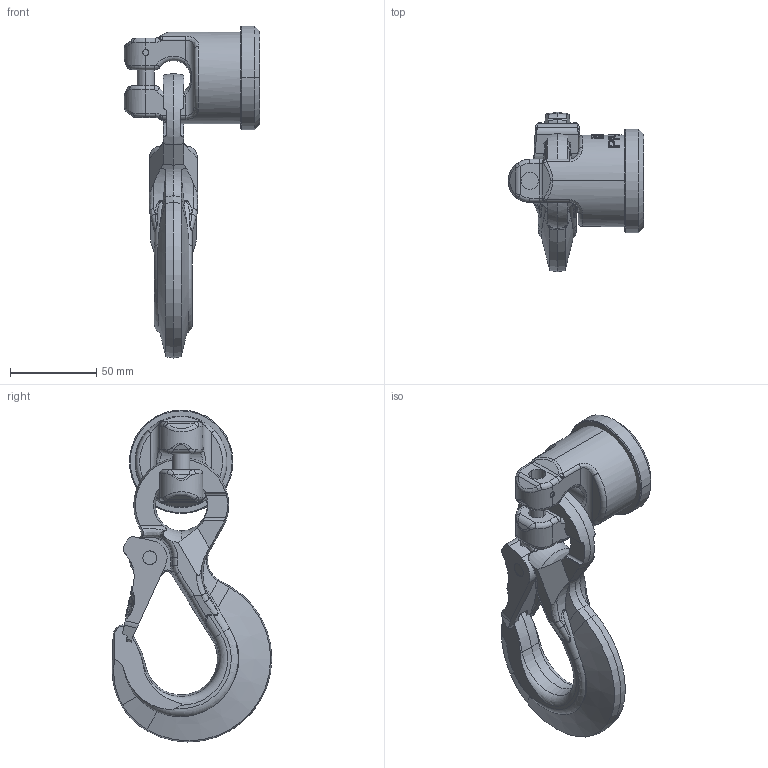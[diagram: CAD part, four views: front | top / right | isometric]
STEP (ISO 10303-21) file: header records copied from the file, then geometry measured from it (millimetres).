
FILE_DESCRIPTION((''),'2;1');
FILE_NAME('001-M31347-P-40_ASM','2018-04-27T',('Anja.Joas'),(''),'PRO/ENGINEER BY PARAMETRIC TECHNOLOGY CORPORATION, 2011490','PRO/ENGINEER BY PARAMETRIC TECHNOLOGY CORPORATION, 2011490','');
FILE_SCHEMA(('CONFIG_CONTROL_DESIGN'));
Length unit declared in the file: millimetre
Products named in the file (6): 001-M31347-P-20; 001-M31347-P-50; 001-M13022-001; 001-M31177-001; 001-M13022-002_ASM; 001-M31347-P-40_ASM
Assembly tree (5 placements, depth 3):
  001-M31347-P-40_ASM
    001-M31347-P-20
    001-M31347-P-50
    001-M13022-002_ASM
      001-M13022-001
      001-M31177-001
Bounding box: 78.5 x 92.48 x 192.3 mm (x, y, z)
Volume: 242198.4 mm3; surface area: 52354.5 mm2
Topology: 4 solids, 4 shells, 638 faces, 1712 edges, 1086 vertices
Faces by surface type: plane 357, cylinder 119, bspline 56, cone 40, torus 36, sphere 30
Entity records: 23361 total; most frequent: CARTESIAN_POINT 8298, ORIENTED_EDGE 3368, DIRECTION 2779, EDGE_CURVE 1684, VERTEX_POINT 1086, AXIS2_PLACEMENT_3D 1026, VECTOR 727, LINE 727
